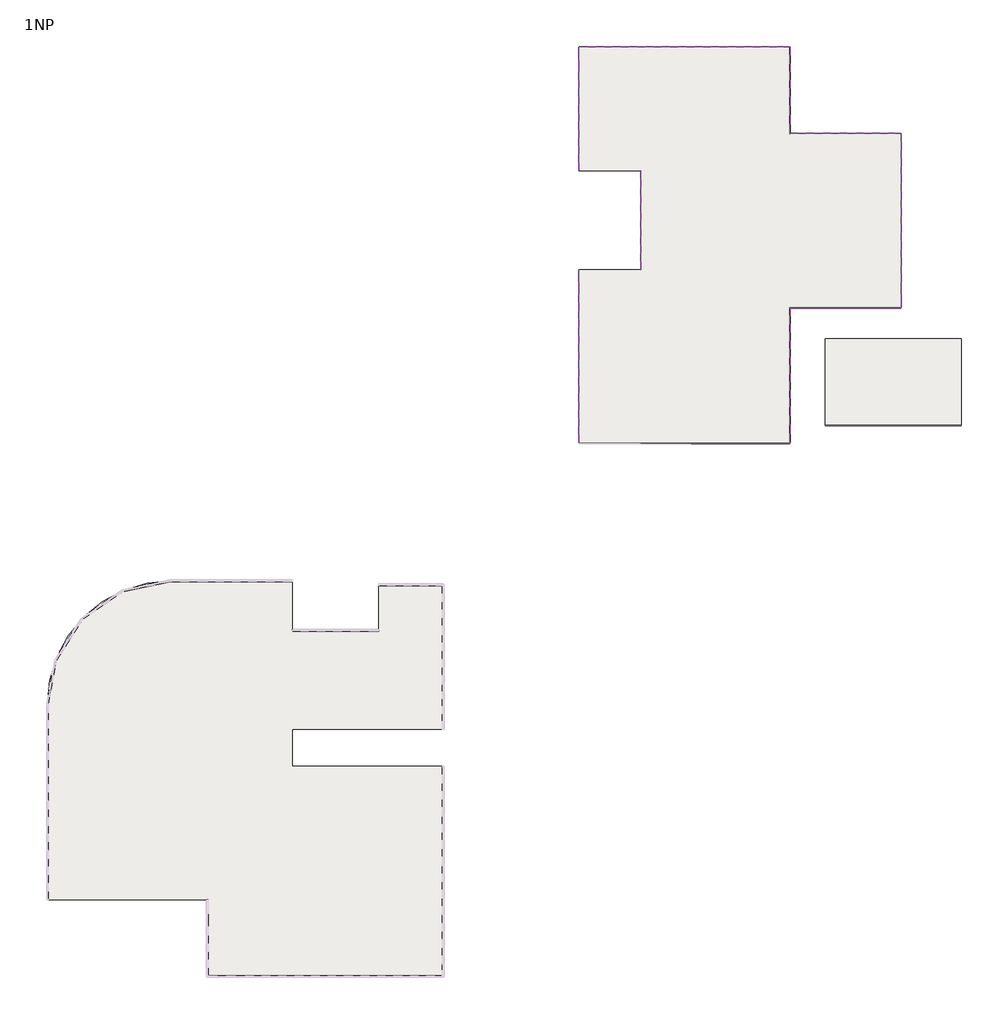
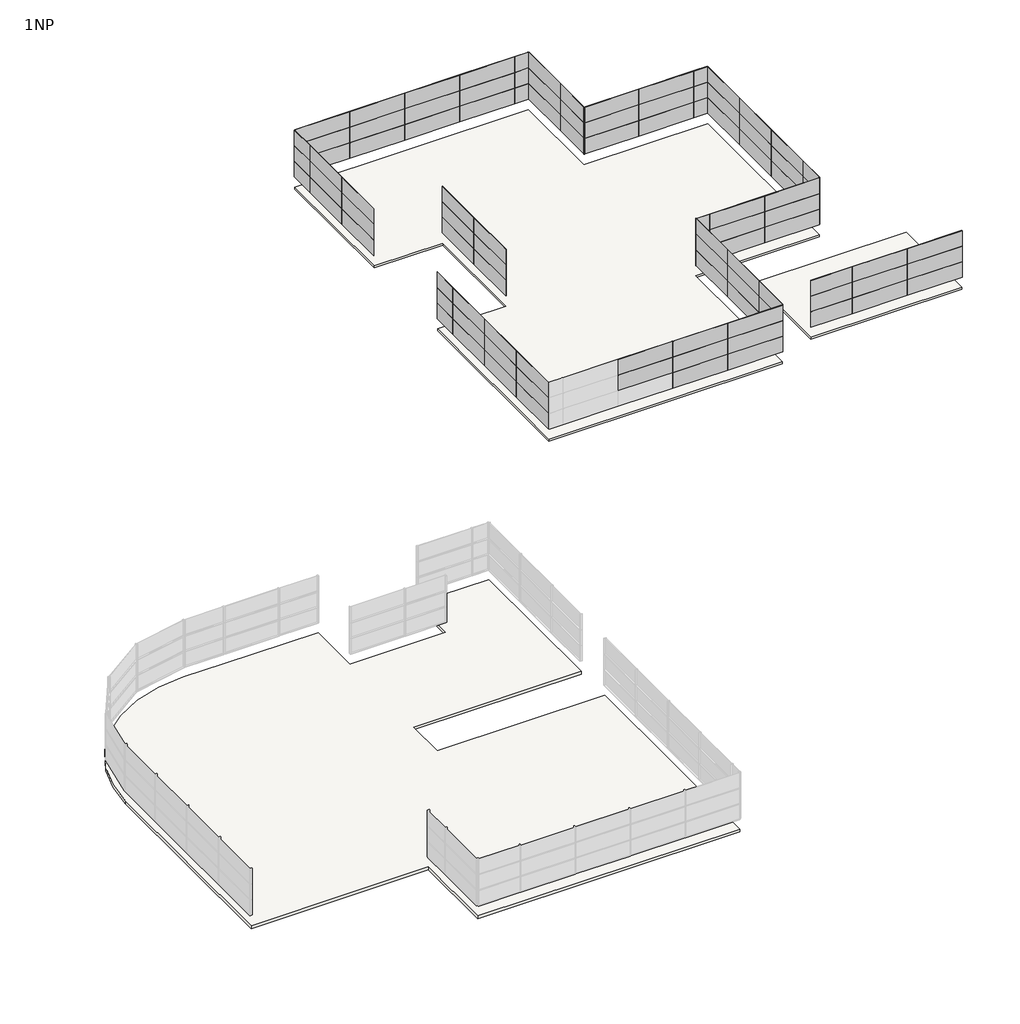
# One storey, part 4 of 4: 104 plates, 2 slabs.
"""IFC4 building model written with IfcOpenShell, lengths in millimetres."""

from ifc_helpers import new_model, si_unit, point, frame, frame_2d, origin, place, context, project, spatial, polyline, circle_curve, trimmed, segment, composite_curve, outline, extrude, transform, mapped, element, save
from components import system_panel_glazed_d6eabcf1, system_panel_glazed_926b6355, system_panel_glazed_d9fb9d0a, system_panel_glazed_4df6a082, system_panel_glazed_76089698, system_panel_glazed_7578c6fa

model = new_model("IFC4")

# Units and contexts
model_context = context("Model", 3, world=origin())
ifc_project = project(units=[si_unit("LENGTHUNIT", "METRE", prefix="MILLI")], contexts=[model_context])

# Site, building, storey
site = spatial("IfcSite", under=ifc_project)
building = spatial("IfcBuilding", under=site)
storey = spatial("IfcBuildingStorey", under=building, Name="1NP", Elevation=4000.0)

# Plates
placement = place(None, origin())
system_panel_glazed_shape = system_panel_glazed_d6eabcf1(model_context)
element("IfcPlate", 1, ObjectType="System Panel : Glazed", at=placement, inside=storey, context=model_context, shape_type="MappedRepresentation", body=[
    mapped(system_panel_glazed_shape, transform((39503.2660975, 19519.7749227, 4800.0), x_axis=(-1.0, 0.0, 0.0), y_axis=(0.0, -1.0, 0.0), z_axis=(0.0, 0.0, 1.0))),
])
element("IfcPlate", 2, ObjectType="System Panel : Glazed", at=placement, inside=storey, context=model_context, shape_type="MappedRepresentation", body=[
    mapped(system_panel_glazed_shape, transform((35503.2660975, 19519.7749227, 4800.0), x_axis=(-1.0, 0.0, 0.0), y_axis=(0.0, -1.0, 0.0), z_axis=(0.0, 0.0, 1.0))),
])
element("IfcPlate", 3, ObjectType="System Panel : Glazed", at=placement, inside=storey, context=model_context, shape_type="MappedRepresentation", body=[
    mapped(system_panel_glazed_shape, transform((39503.2660975, 19519.7749227, 6000.0), x_axis=(-1.0, 0.0, 0.0), y_axis=(0.0, -1.0, 0.0), z_axis=(0.0, 0.0, 1.0))),
])
element("IfcPlate", 4, ObjectType="System Panel : Glazed", at=placement, inside=storey, context=model_context, shape_type="MappedRepresentation", body=[
    mapped(system_panel_glazed_shape, transform((35503.2660975, 19519.7749227, 6000.0), x_axis=(-1.0, 0.0, 0.0), y_axis=(0.0, -1.0, 0.0), z_axis=(0.0, 0.0, 1.0))),
])
element("IfcPlate", 5, ObjectType="System Panel : Glazed", at=placement, inside=storey, context=model_context, shape_type="MappedRepresentation", body=[
    mapped(system_panel_glazed_shape, transform((31503.2660975, 19519.7749227, 6000.0), x_axis=(-1.0, 0.0, 0.0), y_axis=(0.0, -1.0, 0.0), z_axis=(0.0, 0.0, 1.0))),
])
element("IfcPlate", 6, ObjectType="System Panel : Glazed", at=placement, inside=storey, context=model_context, shape_type="MappedRepresentation", body=[
    mapped(system_panel_glazed_shape, transform((39503.2660975, 19519.7749227, 7200.0), x_axis=(-1.0, 0.0, 0.0), y_axis=(0.0, -1.0, 0.0), z_axis=(0.0, 0.0, 1.0))),
])
element("IfcPlate", 7, ObjectType="System Panel : Glazed", at=placement, inside=storey, context=model_context, shape_type="MappedRepresentation", body=[
    mapped(system_panel_glazed_shape, transform((35503.2660975, 19519.7749227, 7200.0), x_axis=(-1.0, 0.0, 0.0), y_axis=(0.0, -1.0, 0.0), z_axis=(0.0, 0.0, 1.0))),
])
element("IfcPlate", 8, ObjectType="System Panel : Glazed", at=placement, inside=storey, context=model_context, shape_type="MappedRepresentation", body=[
    mapped(system_panel_glazed_shape, transform((31503.2660975, 19519.7749227, 7200.0), x_axis=(-1.0, 0.0, 0.0), y_axis=(0.0, -1.0, 0.0), z_axis=(0.0, 0.0, 1.0))),
])
element("IfcPlate", 9, ObjectType="System Panel : Glazed", at=placement, inside=storey, context=model_context, shape_type="MappedRepresentation", body=[
    mapped(system_panel_glazed_shape, transform((24503.2660975, 21519.7749227, 4800.0), x_axis=(0.0, 1.0, 0.0), y_axis=(-1.0, 0.0, 0.0), z_axis=(0.0, 0.0, 1.0))),
])
element("IfcPlate", 10, ObjectType="System Panel : Glazed", at=placement, inside=storey, context=model_context, shape_type="MappedRepresentation", body=[
    mapped(system_panel_glazed_shape, transform((24503.2660975, 25519.7749227, 4800.0), x_axis=(0.0, 1.0, 0.0), y_axis=(-1.0, 0.0, 0.0), z_axis=(0.0, 0.0, 1.0))),
])
element("IfcPlate", 11, ObjectType="System Panel : Glazed", at=placement, inside=storey, context=model_context, shape_type="MappedRepresentation", body=[
    mapped(system_panel_glazed_shape, transform((24503.2660975, 29519.7749227, 4800.0), x_axis=(0.0, 1.0, 0.0), y_axis=(-1.0, 0.0, 0.0), z_axis=(0.0, 0.0, 1.0))),
])
element("IfcPlate", 12, ObjectType="System Panel : Glazed", at=placement, inside=storey, context=model_context, shape_type="MappedRepresentation", body=[
    mapped(system_panel_glazed_shape, transform((24503.2660975, 21519.7749227, 6000.0), x_axis=(0.0, 1.0, 0.0), y_axis=(-1.0, 0.0, 0.0), z_axis=(0.0, 0.0, 1.0))),
])
element("IfcPlate", 13, ObjectType="System Panel : Glazed", at=placement, inside=storey, context=model_context, shape_type="MappedRepresentation", body=[
    mapped(system_panel_glazed_shape, transform((24503.2660975, 25519.7749227, 6000.0), x_axis=(0.0, 1.0, 0.0), y_axis=(-1.0, 0.0, 0.0), z_axis=(0.0, 0.0, 1.0))),
])
element("IfcPlate", 14, ObjectType="System Panel : Glazed", at=placement, inside=storey, context=model_context, shape_type="MappedRepresentation", body=[
    mapped(system_panel_glazed_shape, transform((24503.2660975, 29519.7749227, 6000.0), x_axis=(0.0, 1.0, 0.0), y_axis=(-1.0, 0.0, 0.0), z_axis=(0.0, 0.0, 1.0))),
])
element("IfcPlate", 15, ObjectType="System Panel : Glazed", at=placement, inside=storey, context=model_context, shape_type="MappedRepresentation", body=[
    mapped(system_panel_glazed_shape, transform((24503.2660975, 21519.7749227, 7200.0), x_axis=(0.0, 1.0, 0.0), y_axis=(-1.0, 0.0, 0.0), z_axis=(0.0, 0.0, 1.0))),
])
element("IfcPlate", 16, ObjectType="System Panel : Glazed", at=placement, inside=storey, context=model_context, shape_type="MappedRepresentation", body=[
    mapped(system_panel_glazed_shape, transform((24503.2660975, 25519.7749227, 7200.0), x_axis=(0.0, 1.0, 0.0), y_axis=(-1.0, 0.0, 0.0), z_axis=(0.0, 0.0, 1.0))),
])
element("IfcPlate", 17, ObjectType="System Panel : Glazed", at=placement, inside=storey, context=model_context, shape_type="MappedRepresentation", body=[
    mapped(system_panel_glazed_shape, transform((24503.2660975, 29519.7749227, 7200.0), x_axis=(0.0, 1.0, 0.0), y_axis=(-1.0, 0.0, 0.0), z_axis=(0.0, 0.0, 1.0))),
])
element("IfcPlate", 18, ObjectType="System Panel : Glazed", at=placement, inside=storey, context=model_context, shape_type="MappedRepresentation", body=[
    mapped(system_panel_glazed_shape, transform((29503.2660975, 35519.7749227, 4800.0), x_axis=(0.0, 1.0, 0.0), y_axis=(-1.0, 0.0, 0.0), z_axis=(0.0, 0.0, 1.0))),
])
element("IfcPlate", 19, ObjectType="System Panel : Glazed", at=placement, inside=storey, context=model_context, shape_type="MappedRepresentation", body=[
    mapped(system_panel_glazed_shape, transform((29503.2660975, 39519.7749227, 4800.0), x_axis=(0.0, 1.0, 0.0), y_axis=(-1.0, 0.0, 0.0), z_axis=(0.0, 0.0, 1.0))),
])
element("IfcPlate", 20, ObjectType="System Panel : Glazed", at=placement, inside=storey, context=model_context, shape_type="MappedRepresentation", body=[
    mapped(system_panel_glazed_shape, transform((29503.2660975, 35519.7749227, 6000.0), x_axis=(0.0, 1.0, 0.0), y_axis=(-1.0, 0.0, 0.0), z_axis=(0.0, 0.0, 1.0))),
])
element("IfcPlate", 21, ObjectType="System Panel : Glazed", at=placement, inside=storey, context=model_context, shape_type="MappedRepresentation", body=[
    mapped(system_panel_glazed_shape, transform((29503.2660975, 39519.7749227, 6000.0), x_axis=(0.0, 1.0, 0.0), y_axis=(-1.0, 0.0, 0.0), z_axis=(0.0, 0.0, 1.0))),
])
element("IfcPlate", 22, ObjectType="System Panel : Glazed", at=placement, inside=storey, context=model_context, shape_type="MappedRepresentation", body=[
    mapped(system_panel_glazed_shape, transform((29503.2660975, 35519.7749227, 7200.0), x_axis=(0.0, 1.0, 0.0), y_axis=(-1.0, 0.0, 0.0), z_axis=(0.0, 0.0, 1.0))),
])
element("IfcPlate", 23, ObjectType="System Panel : Glazed", at=placement, inside=storey, context=model_context, shape_type="MappedRepresentation", body=[
    mapped(system_panel_glazed_shape, transform((29503.2660975, 39519.7749227, 7200.0), x_axis=(0.0, 1.0, 0.0), y_axis=(-1.0, 0.0, 0.0), z_axis=(0.0, 0.0, 1.0))),
])
element("IfcPlate", 24, ObjectType="System Panel : Glazed", at=placement, inside=storey, context=model_context, shape_type="MappedRepresentation", body=[
    mapped(system_panel_glazed_shape, transform((24503.2660975, 43519.7749227, 4800.0), x_axis=(0.0, 1.0, 0.0), y_axis=(-1.0, 0.0, 0.0), z_axis=(0.0, 0.0, 1.0))),
])
element("IfcPlate", 25, ObjectType="System Panel : Glazed", at=placement, inside=storey, context=model_context, shape_type="MappedRepresentation", body=[
    mapped(system_panel_glazed_shape, transform((24503.2660975, 47519.7749227, 4800.0), x_axis=(0.0, 1.0, 0.0), y_axis=(-1.0, 0.0, 0.0), z_axis=(0.0, 0.0, 1.0))),
])
element("IfcPlate", 26, ObjectType="System Panel : Glazed", at=placement, inside=storey, context=model_context, shape_type="MappedRepresentation", body=[
    mapped(system_panel_glazed_shape, transform((24503.2660975, 43519.7749227, 6000.0), x_axis=(0.0, 1.0, 0.0), y_axis=(-1.0, 0.0, 0.0), z_axis=(0.0, 0.0, 1.0))),
])
element("IfcPlate", 27, ObjectType="System Panel : Glazed", at=placement, inside=storey, context=model_context, shape_type="MappedRepresentation", body=[
    mapped(system_panel_glazed_shape, transform((24503.2660975, 47519.7749227, 6000.0), x_axis=(0.0, 1.0, 0.0), y_axis=(-1.0, 0.0, 0.0), z_axis=(0.0, 0.0, 1.0))),
])
element("IfcPlate", 28, ObjectType="System Panel : Glazed", at=placement, inside=storey, context=model_context, shape_type="MappedRepresentation", body=[
    mapped(system_panel_glazed_shape, transform((24503.2660975, 43519.7749227, 7200.0), x_axis=(0.0, 1.0, 0.0), y_axis=(-1.0, 0.0, 0.0), z_axis=(0.0, 0.0, 1.0))),
])
element("IfcPlate", 29, ObjectType="System Panel : Glazed", at=placement, inside=storey, context=model_context, shape_type="MappedRepresentation", body=[
    mapped(system_panel_glazed_shape, transform((24503.2660975, 47519.7749227, 7200.0), x_axis=(0.0, 1.0, 0.0), y_axis=(-1.0, 0.0, 0.0), z_axis=(0.0, 0.0, 1.0))),
])
element("IfcPlate", 30, ObjectType="System Panel : Glazed", at=placement, inside=storey, context=model_context, shape_type="MappedRepresentation", body=[
    mapped(system_panel_glazed_shape, transform((48503.2660975, 30457.4517739, 4800.0), x_axis=(-1.0, 0.0, 0.0), y_axis=(0.0, -1.0, 0.0), z_axis=(0.0, 0.0, 1.0))),
])
element("IfcPlate", 31, ObjectType="System Panel : Glazed", at=placement, inside=storey, context=model_context, shape_type="MappedRepresentation", body=[
    mapped(system_panel_glazed_shape, transform((44503.2660975, 30457.4517739, 4800.0), x_axis=(-1.0, 0.0, 0.0), y_axis=(0.0, -1.0, 0.0), z_axis=(0.0, 0.0, 1.0))),
])
element("IfcPlate", 32, ObjectType="System Panel : Glazed", at=placement, inside=storey, context=model_context, shape_type="MappedRepresentation", body=[
    mapped(system_panel_glazed_shape, transform((48503.2660975, 30457.4517739, 6000.0), x_axis=(-1.0, 0.0, 0.0), y_axis=(0.0, -1.0, 0.0), z_axis=(0.0, 0.0, 1.0))),
])
element("IfcPlate", 33, ObjectType="System Panel : Glazed", at=placement, inside=storey, context=model_context, shape_type="MappedRepresentation", body=[
    mapped(system_panel_glazed_shape, transform((44503.2660975, 30457.4517739, 6000.0), x_axis=(-1.0, 0.0, 0.0), y_axis=(0.0, -1.0, 0.0), z_axis=(0.0, 0.0, 1.0))),
])
element("IfcPlate", 34, ObjectType="System Panel : Glazed", at=placement, inside=storey, context=model_context, shape_type="MappedRepresentation", body=[
    mapped(system_panel_glazed_shape, transform((48503.2660975, 30457.4517739, 7200.0), x_axis=(-1.0, 0.0, 0.0), y_axis=(0.0, -1.0, 0.0), z_axis=(0.0, 0.0, 1.0))),
])
element("IfcPlate", 35, ObjectType="System Panel : Glazed", at=placement, inside=storey, context=model_context, shape_type="MappedRepresentation", body=[
    mapped(system_panel_glazed_shape, transform((44503.2660975, 30457.4517739, 7200.0), x_axis=(-1.0, 0.0, 0.0), y_axis=(0.0, -1.0, 0.0), z_axis=(0.0, 0.0, 1.0))),
])
element("IfcPlate", 36, ObjectType="System Panel : Glazed", at=placement, inside=storey, context=model_context, shape_type="MappedRepresentation", body=[
    mapped(system_panel_glazed_shape, transform((53401.4778879, 20957.9625489, 4800.0), x_axis=(-1.0, 0.0, 0.0), y_axis=(0.0, -1.0, 0.0), z_axis=(0.0, 0.0, 1.0))),
])
element("IfcPlate", 37, ObjectType="System Panel : Glazed", at=placement, inside=storey, context=model_context, shape_type="MappedRepresentation", body=[
    mapped(system_panel_glazed_shape, transform((49401.4778879, 20957.9625489, 4800.0), x_axis=(-1.0, 0.0, 0.0), y_axis=(0.0, -1.0, 0.0), z_axis=(0.0, 0.0, 1.0))),
])
element("IfcPlate", 38, ObjectType="System Panel : Glazed", at=placement, inside=storey, context=model_context, shape_type="MappedRepresentation", body=[
    mapped(system_panel_glazed_shape, transform((53401.4778879, 20957.9625489, 6000.0), x_axis=(-1.0, 0.0, 0.0), y_axis=(0.0, -1.0, 0.0), z_axis=(0.0, 0.0, 1.0))),
])
element("IfcPlate", 39, ObjectType="System Panel : Glazed", at=placement, inside=storey, context=model_context, shape_type="MappedRepresentation", body=[
    mapped(system_panel_glazed_shape, transform((49401.4778879, 20957.9625489, 6000.0), x_axis=(-1.0, 0.0, 0.0), y_axis=(0.0, -1.0, 0.0), z_axis=(0.0, 0.0, 1.0))),
])
element("IfcPlate", 40, ObjectType="System Panel : Glazed", at=placement, inside=storey, context=model_context, shape_type="MappedRepresentation", body=[
    mapped(system_panel_glazed_shape, transform((53401.4778879, 20957.9625489, 7200.0), x_axis=(-1.0, 0.0, 0.0), y_axis=(0.0, -1.0, 0.0), z_axis=(0.0, 0.0, 1.0))),
])
element("IfcPlate", 41, ObjectType="System Panel : Glazed", at=placement, inside=storey, context=model_context, shape_type="MappedRepresentation", body=[
    mapped(system_panel_glazed_shape, transform((49401.4778879, 20957.9625489, 7200.0), x_axis=(-1.0, 0.0, 0.0), y_axis=(0.0, -1.0, 0.0), z_axis=(0.0, 0.0, 1.0))),
])
element("IfcPlate", 42, ObjectType="System Panel : Glazed", at=placement, inside=storey, context=model_context, shape_type="MappedRepresentation", body=[
    mapped(system_panel_glazed_shape, transform((26503.2660975, 51519.7749227, 4800.0), x_axis=(1.0, 0.0, 0.0), y_axis=(0.0, 1.0, 0.0), z_axis=(0.0, 0.0, 1.0))),
])
element("IfcPlate", 43, ObjectType="System Panel : Glazed", at=placement, inside=storey, context=model_context, shape_type="MappedRepresentation", body=[
    mapped(system_panel_glazed_shape, transform((30503.2660975, 51519.7749227, 4800.0), x_axis=(1.0, 0.0, 0.0), y_axis=(0.0, 1.0, 0.0), z_axis=(0.0, 0.0, 1.0))),
])
element("IfcPlate", 44, ObjectType="System Panel : Glazed", at=placement, inside=storey, context=model_context, shape_type="MappedRepresentation", body=[
    mapped(system_panel_glazed_shape, transform((34503.2660975, 51519.7749227, 4800.0), x_axis=(1.0, 0.0, 0.0), y_axis=(0.0, 1.0, 0.0), z_axis=(0.0, 0.0, 1.0))),
])
element("IfcPlate", 45, ObjectType="System Panel : Glazed", at=placement, inside=storey, context=model_context, shape_type="MappedRepresentation", body=[
    mapped(system_panel_glazed_shape, transform((38503.2660975, 51519.7749227, 4800.0), x_axis=(1.0, 0.0, 0.0), y_axis=(0.0, 1.0, 0.0), z_axis=(0.0, 0.0, 1.0))),
])
element("IfcPlate", 46, ObjectType="System Panel : Glazed", at=placement, inside=storey, context=model_context, shape_type="MappedRepresentation", body=[
    mapped(system_panel_glazed_shape, transform((26503.2660975, 51519.7749227, 6000.0), x_axis=(1.0, 0.0, 0.0), y_axis=(0.0, 1.0, 0.0), z_axis=(0.0, 0.0, 1.0))),
])
element("IfcPlate", 47, ObjectType="System Panel : Glazed", at=placement, inside=storey, context=model_context, shape_type="MappedRepresentation", body=[
    mapped(system_panel_glazed_shape, transform((30503.2660975, 51519.7749227, 6000.0), x_axis=(1.0, 0.0, 0.0), y_axis=(0.0, 1.0, 0.0), z_axis=(0.0, 0.0, 1.0))),
])
element("IfcPlate", 48, ObjectType="System Panel : Glazed", at=placement, inside=storey, context=model_context, shape_type="MappedRepresentation", body=[
    mapped(system_panel_glazed_shape, transform((34503.2660975, 51519.7749227, 6000.0), x_axis=(1.0, 0.0, 0.0), y_axis=(0.0, 1.0, 0.0), z_axis=(0.0, 0.0, 1.0))),
])
element("IfcPlate", 49, ObjectType="System Panel : Glazed", at=placement, inside=storey, context=model_context, shape_type="MappedRepresentation", body=[
    mapped(system_panel_glazed_shape, transform((38503.2660975, 51519.7749227, 6000.0), x_axis=(1.0, 0.0, 0.0), y_axis=(0.0, 1.0, 0.0), z_axis=(0.0, 0.0, 1.0))),
])
element("IfcPlate", 50, ObjectType="System Panel : Glazed", at=placement, inside=storey, context=model_context, shape_type="MappedRepresentation", body=[
    mapped(system_panel_glazed_shape, transform((26503.2660975, 51519.7749227, 7200.0), x_axis=(1.0, 0.0, 0.0), y_axis=(0.0, 1.0, 0.0), z_axis=(0.0, 0.0, 1.0))),
])
element("IfcPlate", 51, ObjectType="System Panel : Glazed", at=placement, inside=storey, context=model_context, shape_type="MappedRepresentation", body=[
    mapped(system_panel_glazed_shape, transform((30503.2660975, 51519.7749227, 7200.0), x_axis=(1.0, 0.0, 0.0), y_axis=(0.0, 1.0, 0.0), z_axis=(0.0, 0.0, 1.0))),
])
element("IfcPlate", 52, ObjectType="System Panel : Glazed", at=placement, inside=storey, context=model_context, shape_type="MappedRepresentation", body=[
    mapped(system_panel_glazed_shape, transform((34503.2660975, 51519.7749227, 7200.0), x_axis=(1.0, 0.0, 0.0), y_axis=(0.0, 1.0, 0.0), z_axis=(0.0, 0.0, 1.0))),
])
element("IfcPlate", 53, ObjectType="System Panel : Glazed", at=placement, inside=storey, context=model_context, shape_type="MappedRepresentation", body=[
    mapped(system_panel_glazed_shape, transform((38503.2660975, 51519.7749227, 7200.0), x_axis=(1.0, 0.0, 0.0), y_axis=(0.0, 1.0, 0.0), z_axis=(0.0, 0.0, 1.0))),
])
element("IfcPlate", 54, ObjectType="System Panel : Glazed", at=placement, inside=storey, context=model_context, shape_type="MappedRepresentation", body=[
    mapped(system_panel_glazed_shape, transform((41503.2660975, 49519.7749227, 4800.0), x_axis=(0.0, -1.0, 0.0), y_axis=(1.0, 0.0, 0.0), z_axis=(0.0, 0.0, 1.0))),
])
element("IfcPlate", 55, ObjectType="System Panel : Glazed", at=placement, inside=storey, context=model_context, shape_type="MappedRepresentation", body=[
    mapped(system_panel_glazed_shape, transform((41503.2660975, 49519.7749227, 6000.0), x_axis=(0.0, -1.0, 0.0), y_axis=(1.0, 0.0, 0.0), z_axis=(0.0, 0.0, 1.0))),
])
element("IfcPlate", 56, ObjectType="System Panel : Glazed", at=placement, inside=storey, context=model_context, shape_type="MappedRepresentation", body=[
    mapped(system_panel_glazed_shape, transform((41503.2660975, 49519.7749227, 7200.0), x_axis=(0.0, -1.0, 0.0), y_axis=(1.0, 0.0, 0.0), z_axis=(0.0, 0.0, 1.0))),
])
element("IfcPlate", 57, ObjectType="System Panel : Glazed", at=placement, inside=storey, context=model_context, shape_type="MappedRepresentation", body=[
    mapped(system_panel_glazed_shape, transform((43503.2660975, 44519.7749227, 4800.0), x_axis=(1.0, 0.0, 0.0), y_axis=(0.0, 1.0, 0.0), z_axis=(0.0, 0.0, 1.0))),
])
element("IfcPlate", 58, ObjectType="System Panel : Glazed", at=placement, inside=storey, context=model_context, shape_type="MappedRepresentation", body=[
    mapped(system_panel_glazed_shape, transform((47503.2660975, 44519.7749227, 4800.0), x_axis=(1.0, 0.0, 0.0), y_axis=(0.0, 1.0, 0.0), z_axis=(0.0, 0.0, 1.0))),
])
element("IfcPlate", 59, ObjectType="System Panel : Glazed", at=placement, inside=storey, context=model_context, shape_type="MappedRepresentation", body=[
    mapped(system_panel_glazed_shape, transform((43503.2660975, 44519.7749227, 6000.0), x_axis=(1.0, 0.0, 0.0), y_axis=(0.0, 1.0, 0.0), z_axis=(0.0, 0.0, 1.0))),
])
element("IfcPlate", 60, ObjectType="System Panel : Glazed", at=placement, inside=storey, context=model_context, shape_type="MappedRepresentation", body=[
    mapped(system_panel_glazed_shape, transform((47503.2660975, 44519.7749227, 6000.0), x_axis=(1.0, 0.0, 0.0), y_axis=(0.0, 1.0, 0.0), z_axis=(0.0, 0.0, 1.0))),
])
element("IfcPlate", 61, ObjectType="System Panel : Glazed", at=placement, inside=storey, context=model_context, shape_type="MappedRepresentation", body=[
    mapped(system_panel_glazed_shape, transform((43503.2660975, 44519.7749227, 7200.0), x_axis=(1.0, 0.0, 0.0), y_axis=(0.0, 1.0, 0.0), z_axis=(0.0, 0.0, 1.0))),
])
element("IfcPlate", 62, ObjectType="System Panel : Glazed", at=placement, inside=storey, context=model_context, shape_type="MappedRepresentation", body=[
    mapped(system_panel_glazed_shape, transform((47503.2660975, 44519.7749227, 7200.0), x_axis=(1.0, 0.0, 0.0), y_axis=(0.0, 1.0, 0.0), z_axis=(0.0, 0.0, 1.0))),
])
element("IfcPlate", 63, ObjectType="System Panel : Glazed", at=placement, inside=storey, context=model_context, shape_type="MappedRepresentation", body=[
    mapped(system_panel_glazed_shape, transform((50503.2660975, 42519.7749227, 4800.0), x_axis=(0.0, -1.0, 0.0), y_axis=(1.0, 0.0, 0.0), z_axis=(0.0, 0.0, 1.0))),
])
element("IfcPlate", 64, ObjectType="System Panel : Glazed", at=placement, inside=storey, context=model_context, shape_type="MappedRepresentation", body=[
    mapped(system_panel_glazed_shape, transform((50503.2660975, 38519.7749227, 4800.0), x_axis=(0.0, -1.0, 0.0), y_axis=(1.0, 0.0, 0.0), z_axis=(0.0, 0.0, 1.0))),
])
element("IfcPlate", 65, ObjectType="System Panel : Glazed", at=placement, inside=storey, context=model_context, shape_type="MappedRepresentation", body=[
    mapped(system_panel_glazed_shape, transform((50503.2660975, 34519.7749227, 4800.0), x_axis=(0.0, -1.0, 0.0), y_axis=(1.0, 0.0, 0.0), z_axis=(0.0, 0.0, 1.0))),
])
element("IfcPlate", 66, ObjectType="System Panel : Glazed", at=placement, inside=storey, context=model_context, shape_type="MappedRepresentation", body=[
    mapped(system_panel_glazed_shape, transform((50503.2660975, 42519.7749227, 6000.0), x_axis=(0.0, -1.0, 0.0), y_axis=(1.0, 0.0, 0.0), z_axis=(0.0, 0.0, 1.0))),
])
element("IfcPlate", 67, ObjectType="System Panel : Glazed", at=placement, inside=storey, context=model_context, shape_type="MappedRepresentation", body=[
    mapped(system_panel_glazed_shape, transform((50503.2660975, 38519.7749227, 6000.0), x_axis=(0.0, -1.0, 0.0), y_axis=(1.0, 0.0, 0.0), z_axis=(0.0, 0.0, 1.0))),
])
element("IfcPlate", 68, ObjectType="System Panel : Glazed", at=placement, inside=storey, context=model_context, shape_type="MappedRepresentation", body=[
    mapped(system_panel_glazed_shape, transform((50503.2660975, 34519.7749227, 6000.0), x_axis=(0.0, -1.0, 0.0), y_axis=(1.0, 0.0, 0.0), z_axis=(0.0, 0.0, 1.0))),
])
element("IfcPlate", 69, ObjectType="System Panel : Glazed", at=placement, inside=storey, context=model_context, shape_type="MappedRepresentation", body=[
    mapped(system_panel_glazed_shape, transform((50503.2660975, 42519.7749227, 7200.0), x_axis=(0.0, -1.0, 0.0), y_axis=(1.0, 0.0, 0.0), z_axis=(0.0, 0.0, 1.0))),
])
element("IfcPlate", 70, ObjectType="System Panel : Glazed", at=placement, inside=storey, context=model_context, shape_type="MappedRepresentation", body=[
    mapped(system_panel_glazed_shape, transform((50503.2660975, 38519.7749227, 7200.0), x_axis=(0.0, -1.0, 0.0), y_axis=(1.0, 0.0, 0.0), z_axis=(0.0, 0.0, 1.0))),
])
element("IfcPlate", 71, ObjectType="System Panel : Glazed", at=placement, inside=storey, context=model_context, shape_type="MappedRepresentation", body=[
    mapped(system_panel_glazed_shape, transform((50503.2660975, 34519.7749227, 7200.0), x_axis=(0.0, -1.0, 0.0), y_axis=(1.0, 0.0, 0.0), z_axis=(0.0, 0.0, 1.0))),
])
element("IfcPlate", 72, ObjectType="System Panel : Glazed", at=placement, inside=storey, context=model_context, shape_type="MappedRepresentation", body=[
    mapped(system_panel_glazed_shape, transform((41503.2660975, 28457.4517739, 4800.0), x_axis=(0.0, -1.0, 0.0), y_axis=(1.0, 0.0, 0.0), z_axis=(0.0, 0.0, 1.0))),
])
element("IfcPlate", 73, ObjectType="System Panel : Glazed", at=placement, inside=storey, context=model_context, shape_type="MappedRepresentation", body=[
    mapped(system_panel_glazed_shape, transform((41503.2660975, 24457.4517739, 4800.0), x_axis=(0.0, -1.0, 0.0), y_axis=(1.0, 0.0, 0.0), z_axis=(0.0, 0.0, 1.0))),
])
element("IfcPlate", 74, ObjectType="System Panel : Glazed", at=placement, inside=storey, context=model_context, shape_type="MappedRepresentation", body=[
    mapped(system_panel_glazed_shape, transform((41503.2660975, 28457.4517739, 6000.0), x_axis=(0.0, -1.0, 0.0), y_axis=(1.0, 0.0, 0.0), z_axis=(0.0, 0.0, 1.0))),
])
element("IfcPlate", 75, ObjectType="System Panel : Glazed", at=placement, inside=storey, context=model_context, shape_type="MappedRepresentation", body=[
    mapped(system_panel_glazed_shape, transform((41503.2660975, 24457.4517739, 6000.0), x_axis=(0.0, -1.0, 0.0), y_axis=(1.0, 0.0, 0.0), z_axis=(0.0, 0.0, 1.0))),
])
element("IfcPlate", 76, ObjectType="System Panel : Glazed", at=placement, inside=storey, context=model_context, shape_type="MappedRepresentation", body=[
    mapped(system_panel_glazed_shape, transform((41503.2660975, 28457.4517739, 7200.0), x_axis=(0.0, -1.0, 0.0), y_axis=(1.0, 0.0, 0.0), z_axis=(0.0, 0.0, 1.0))),
])
element("IfcPlate", 77, ObjectType="System Panel : Glazed", at=placement, inside=storey, context=model_context, shape_type="MappedRepresentation", body=[
    mapped(system_panel_glazed_shape, transform((41503.2660975, 24457.4517739, 7200.0), x_axis=(0.0, -1.0, 0.0), y_axis=(1.0, 0.0, 0.0), z_axis=(0.0, 0.0, 1.0))),
])
system_panel_glazed_2_shape = system_panel_glazed_926b6355(model_context)
element("IfcPlate", 78, ObjectType="System Panel : Glazed", at=placement, inside=storey, context=model_context, shape_type="MappedRepresentation", body=[
    mapped(system_panel_glazed_2_shape, transform((42003.2660975, 30457.4517739, 4800.0), x_axis=(-1.0, 0.0, 0.0), y_axis=(0.0, -1.0, 0.0), z_axis=(0.0, 0.0, 1.0))),
])
element("IfcPlate", 79, ObjectType="System Panel : Glazed", at=placement, inside=storey, context=model_context, shape_type="MappedRepresentation", body=[
    mapped(system_panel_glazed_2_shape, transform((42003.2660975, 30457.4517739, 6000.0), x_axis=(-1.0, 0.0, 0.0), y_axis=(0.0, -1.0, 0.0), z_axis=(0.0, 0.0, 1.0))),
])
element("IfcPlate", 80, ObjectType="System Panel : Glazed", at=placement, inside=storey, context=model_context, shape_type="MappedRepresentation", body=[
    mapped(system_panel_glazed_2_shape, transform((42003.2660975, 30457.4517739, 7200.0), x_axis=(-1.0, 0.0, 0.0), y_axis=(0.0, -1.0, 0.0), z_axis=(0.0, 0.0, 1.0))),
])
element("IfcPlate", 81, ObjectType="System Panel : Glazed", at=placement, inside=storey, context=model_context, shape_type="MappedRepresentation", body=[
    mapped(system_panel_glazed_2_shape, transform((41003.2660975, 51519.7749227, 4800.0), x_axis=(1.0, 0.0, 0.0), y_axis=(0.0, 1.0, 0.0), z_axis=(0.0, 0.0, 1.0))),
])
element("IfcPlate", 82, ObjectType="System Panel : Glazed", at=placement, inside=storey, context=model_context, shape_type="MappedRepresentation", body=[
    mapped(system_panel_glazed_2_shape, transform((41003.2660975, 51519.7749227, 6000.0), x_axis=(1.0, 0.0, 0.0), y_axis=(0.0, 1.0, 0.0), z_axis=(0.0, 0.0, 1.0))),
])
element("IfcPlate", 83, ObjectType="System Panel : Glazed", at=placement, inside=storey, context=model_context, shape_type="MappedRepresentation", body=[
    mapped(system_panel_glazed_2_shape, transform((41003.2660975, 51519.7749227, 7200.0), x_axis=(1.0, 0.0, 0.0), y_axis=(0.0, 1.0, 0.0), z_axis=(0.0, 0.0, 1.0))),
])
element("IfcPlate", 84, ObjectType="System Panel : Glazed", at=placement, inside=storey, context=model_context, shape_type="MappedRepresentation", body=[
    mapped(system_panel_glazed_2_shape, transform((50003.2660975, 44519.7749227, 4800.0), x_axis=(1.0, 0.0, 0.0), y_axis=(0.0, 1.0, 0.0), z_axis=(0.0, 0.0, 1.0))),
])
element("IfcPlate", 85, ObjectType="System Panel : Glazed", at=placement, inside=storey, context=model_context, shape_type="MappedRepresentation", body=[
    mapped(system_panel_glazed_2_shape, transform((50003.2660975, 44519.7749227, 6000.0), x_axis=(1.0, 0.0, 0.0), y_axis=(0.0, 1.0, 0.0), z_axis=(0.0, 0.0, 1.0))),
])
element("IfcPlate", 86, ObjectType="System Panel : Glazed", at=placement, inside=storey, context=model_context, shape_type="MappedRepresentation", body=[
    mapped(system_panel_glazed_2_shape, transform((50003.2660975, 44519.7749227, 7200.0), x_axis=(1.0, 0.0, 0.0), y_axis=(0.0, 1.0, 0.0), z_axis=(0.0, 0.0, 1.0))),
])
system_panel_glazed_3_shape = system_panel_glazed_d9fb9d0a(model_context)
element("IfcPlate", 87, ObjectType="System Panel : Glazed", at=placement, inside=storey, context=model_context, shape_type="MappedRepresentation", body=[
    mapped(system_panel_glazed_3_shape, transform((24503.2660975, 32519.7749227, 4800.0), x_axis=(0.0, 1.0, 0.0), y_axis=(-1.0, 0.0, 0.0), z_axis=(0.0, 0.0, 1.0))),
])
element("IfcPlate", 88, ObjectType="System Panel : Glazed", at=placement, inside=storey, context=model_context, shape_type="MappedRepresentation", body=[
    mapped(system_panel_glazed_3_shape, transform((24503.2660975, 32519.7749227, 6000.0), x_axis=(0.0, 1.0, 0.0), y_axis=(-1.0, 0.0, 0.0), z_axis=(0.0, 0.0, 1.0))),
])
element("IfcPlate", 89, ObjectType="System Panel : Glazed", at=placement, inside=storey, context=model_context, shape_type="MappedRepresentation", body=[
    mapped(system_panel_glazed_3_shape, transform((24503.2660975, 32519.7749227, 7200.0), x_axis=(0.0, 1.0, 0.0), y_axis=(-1.0, 0.0, 0.0), z_axis=(0.0, 0.0, 1.0))),
])
element("IfcPlate", 90, ObjectType="System Panel : Glazed", at=placement, inside=storey, context=model_context, shape_type="MappedRepresentation", body=[
    mapped(system_panel_glazed_3_shape, transform((24503.2660975, 50519.7749227, 4800.0), x_axis=(0.0, 1.0, 0.0), y_axis=(-1.0, 0.0, 0.0), z_axis=(0.0, 0.0, 1.0))),
])
element("IfcPlate", 91, ObjectType="System Panel : Glazed", at=placement, inside=storey, context=model_context, shape_type="MappedRepresentation", body=[
    mapped(system_panel_glazed_3_shape, transform((24503.2660975, 50519.7749227, 6000.0), x_axis=(0.0, 1.0, 0.0), y_axis=(-1.0, 0.0, 0.0), z_axis=(0.0, 0.0, 1.0))),
])
element("IfcPlate", 92, ObjectType="System Panel : Glazed", at=placement, inside=storey, context=model_context, shape_type="MappedRepresentation", body=[
    mapped(system_panel_glazed_3_shape, transform((24503.2660975, 50519.7749227, 7200.0), x_axis=(0.0, 1.0, 0.0), y_axis=(-1.0, 0.0, 0.0), z_axis=(0.0, 0.0, 1.0))),
])
system_panel_glazed_4_shape = system_panel_glazed_4df6a082(model_context)
element("IfcPlate", 93, ObjectType="System Panel : Glazed", at=placement, inside=storey, context=model_context, shape_type="MappedRepresentation", body=[
    mapped(system_panel_glazed_4_shape, transform((45901.4778879, 20957.9625489, 4800.0), x_axis=(-1.0, 0.0, 0.0), y_axis=(0.0, -1.0, 0.0), z_axis=(0.0, 0.0, 1.0))),
])
element("IfcPlate", 94, ObjectType="System Panel : Glazed", at=placement, inside=storey, context=model_context, shape_type="MappedRepresentation", body=[
    mapped(system_panel_glazed_4_shape, transform((45901.4778879, 20957.9625489, 6000.0), x_axis=(-1.0, 0.0, 0.0), y_axis=(0.0, -1.0, 0.0), z_axis=(0.0, 0.0, 1.0))),
])
element("IfcPlate", 95, ObjectType="System Panel : Glazed", at=placement, inside=storey, context=model_context, shape_type="MappedRepresentation", body=[
    mapped(system_panel_glazed_4_shape, transform((45901.4778879, 20957.9625489, 7200.0), x_axis=(-1.0, 0.0, 0.0), y_axis=(0.0, -1.0, 0.0), z_axis=(0.0, 0.0, 1.0))),
])
element("IfcPlate", 96, ObjectType="System Panel : Glazed", at=placement, inside=storey, context=model_context, shape_type="MappedRepresentation", body=[
    mapped(system_panel_glazed_4_shape, transform((41503.2660975, 46019.7749227, 4800.0), x_axis=(0.0, -1.0, 0.0), y_axis=(1.0, 0.0, 0.0), z_axis=(0.0, 0.0, 1.0))),
])
element("IfcPlate", 97, ObjectType="System Panel : Glazed", at=placement, inside=storey, context=model_context, shape_type="MappedRepresentation", body=[
    mapped(system_panel_glazed_4_shape, transform((41503.2660975, 46019.7749227, 6000.0), x_axis=(0.0, -1.0, 0.0), y_axis=(1.0, 0.0, 0.0), z_axis=(0.0, 0.0, 1.0))),
])
element("IfcPlate", 98, ObjectType="System Panel : Glazed", at=placement, inside=storey, context=model_context, shape_type="MappedRepresentation", body=[
    mapped(system_panel_glazed_4_shape, transform((41503.2660975, 46019.7749227, 7200.0), x_axis=(0.0, -1.0, 0.0), y_axis=(1.0, 0.0, 0.0), z_axis=(0.0, 0.0, 1.0))),
])
system_panel_glazed_5_shape = system_panel_glazed_76089698(model_context)
element("IfcPlate", 99, ObjectType="System Panel : Glazed", at=placement, inside=storey, context=model_context, shape_type="MappedRepresentation", body=[
    mapped(system_panel_glazed_5_shape, transform((50503.2660975, 31488.6133483, 4800.0), x_axis=(0.0, -1.0, 0.0), y_axis=(1.0, 0.0, 0.0), z_axis=(0.0, 0.0, 1.0))),
])
element("IfcPlate", 100, ObjectType="System Panel : Glazed", at=placement, inside=storey, context=model_context, shape_type="MappedRepresentation", body=[
    mapped(system_panel_glazed_5_shape, transform((50503.2660975, 31488.6133483, 6000.0), x_axis=(0.0, -1.0, 0.0), y_axis=(1.0, 0.0, 0.0), z_axis=(0.0, 0.0, 1.0))),
])
element("IfcPlate", 101, ObjectType="System Panel : Glazed", at=placement, inside=storey, context=model_context, shape_type="MappedRepresentation", body=[
    mapped(system_panel_glazed_5_shape, transform((50503.2660975, 31488.6133483, 7200.0), x_axis=(0.0, -1.0, 0.0), y_axis=(1.0, 0.0, 0.0), z_axis=(0.0, 0.0, 1.0))),
])
system_panel_glazed_6_shape = system_panel_glazed_7578c6fa(model_context)
element("IfcPlate", 102, ObjectType="System Panel : Glazed", at=placement, inside=storey, context=model_context, shape_type="MappedRepresentation", body=[
    mapped(system_panel_glazed_6_shape, transform((41503.2660975, 20988.6133483, 4800.0), x_axis=(0.0, -1.0, 0.0), y_axis=(1.0, 0.0, 0.0), z_axis=(0.0, 0.0, 1.0))),
])
element("IfcPlate", 103, ObjectType="System Panel : Glazed", at=placement, inside=storey, context=model_context, shape_type="MappedRepresentation", body=[
    mapped(system_panel_glazed_6_shape, transform((41503.2660975, 20988.6133483, 6000.0), x_axis=(0.0, -1.0, 0.0), y_axis=(1.0, 0.0, 0.0), z_axis=(0.0, 0.0, 1.0))),
])
element("IfcPlate", 104, ObjectType="System Panel : Glazed", at=placement, inside=storey, context=model_context, shape_type="MappedRepresentation", body=[
    mapped(system_panel_glazed_6_shape, transform((41503.2660975, 20988.6133483, 7200.0), x_axis=(0.0, -1.0, 0.0), y_axis=(1.0, 0.0, 0.0), z_axis=(0.0, 0.0, 1.0))),
])

# Slabs
element("IfcSlab", 105, ObjectType="Generic 150mm", at=placement, inside=storey, context=model_context, shape_type="SweptSolid", body=[
    extrude(outline(polyline([(24503.2660975, 19519.7749227), (24503.2660975, 33519.7749227), (29503.2660975, 33519.7749227), (29503.2660975, 41519.7749227), (24503.2660975, 41519.7749227), (24503.2660975, 51519.7749227), (41503.2660975, 51519.7749227), (41503.2660975, 44519.7749227), (50503.2660975, 44519.7749227), (50503.2660975, 30457.4517739), (41503.2660975, 30457.4517739), (41503.2660975, 19519.7749227), (24503.2660975, 19519.7749227)])), frame((0.0, 0.0, 3850.0), z_axis=(0.0, 0.0, 1.0), x_axis=(1.0, 0.0, 0.0)), (0.0, 0.0, 1.0), 150.0),
    extrude(outline(polyline([(44401.4778879, 20957.9625489), (44401.4778879, 27957.9625489), (55401.4778879, 27957.9625489), (55401.4778879, 20957.9625489), (44401.4778879, 20957.9625489)])), frame((0.0, 0.0, 3850.0), z_axis=(0.0, 0.0, 1.0), x_axis=(1.0, 0.0, 0.0)), (0.0, 0.0, 1.0), 150.0),
])
element("IfcSlab", 106, ObjectType="Insitu Concrete 225mm", at=placement, inside=storey, context=model_context, shape_type="SweptSolid", body=[
    extrude(outline(composite_curve([segment(polyline([(-18496.7339025, -17423.5291324), (-18496.7339025, -1624.0160434)]), True, "CONTINUOUS"), segment(trimmed(circle_curve(frame_2d((-8496.7339025, -1624.0160434)), 10000.0), [point((-18496.7339025, -1624.0160434))], [point((-8496.7339025, 8375.9839566))], False, "CARTESIAN"), True, "CONTINUOUS"), segment(polyline([(-8496.7339025, 8375.9839566), (-5587.173406, 8375.9839566), (1278.419219, 8375.9839566), (1278.419219, 4375.9839566), (8278.419219, 4375.9839566), (8278.419219, 8039.3555415), (13503.2660975, 8039.3555415), (13503.2660975, -3624.0160434), (1278.419219, -3624.0160434), (1278.419219, -6624.0160434), (13503.2660975, -6624.0160434), (13503.2660975, -23624.0160434), (-5587.173406, -23624.0160434), (-5587.173406, -17423.5291324), (-18496.7339025, -17423.5291324)]), True, "CONTINUOUS")], self_intersect=False)), frame((0.0, 0.0, 3775.0), z_axis=(0.0, 0.0, 1.0), x_axis=(1.0, 0.0, 0.0)), (0.0, 0.0, 1.0), 225.0),
])

save(model, "model.ifc")
